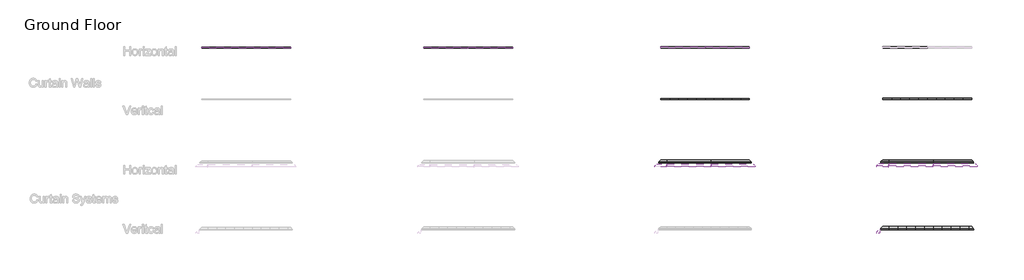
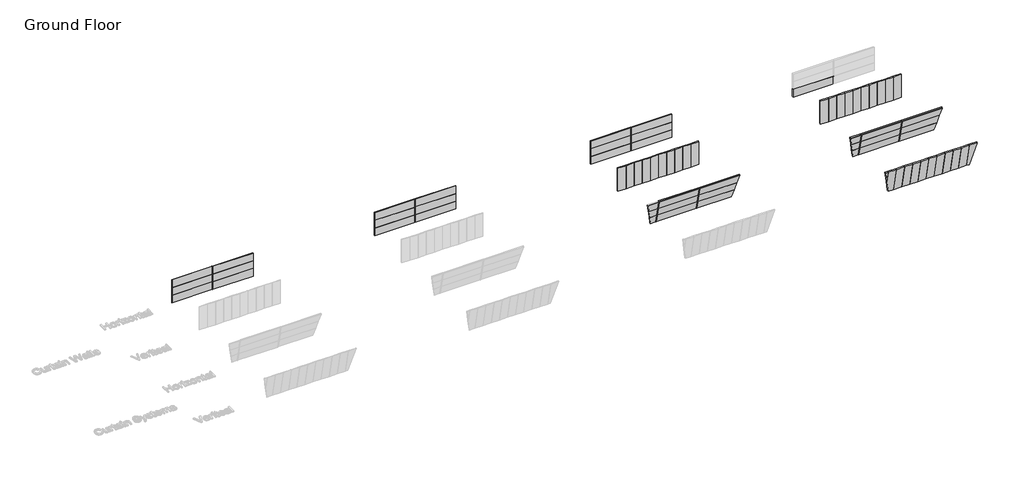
# One storey, part 2 of 9: 74 plates, 25 members.
"""IFC4 building model written with IfcOpenShell, lengths in millimetres."""

from ifc_helpers import new_model, si_unit, origin, place, context, project, spatial, transform, mapped, element, save
from components import rectangular_mullion_pi_mullion_20gap_50depth_70width_d0ed6173, rectangular_mullion_pi_mullion_20gap_50depth_70width_142a5764, rectangular_mullion_pi_mullion_20gap_50depth_70width_9113199f, system_panel_2c57112f, system_panel_697395f3, system_panel_573d2014, system_panel_0390bdc7, system_panel_1b0c88f6, system_panel_17cfb40a, system_panel_ba8f056f, system_panel_ebee40ae, system_panel_bdb03481, system_panel_a81ec092, system_panel_2d42fb1b, system_panel_5ff77a8b, system_panel_9321762e, system_panel_c71e2b66, system_panel_2ec3f56c, system_panel_6f0eb11b, system_panel_3cb989ff, system_panel_ad831b4e, system_panel_1f499e5d, system_panel_25ad28c7, system_panel_212c07fe, system_panel_cee82647, system_panel_2a0c4a62, system_panel_820816a4, system_panel_d4aeffd6, system_panel_48e39383, system_panel_5c141952, system_panel_36b0335f, system_panel_2fc1e0e9

model = new_model("IFC4")

# Units and contexts
model_context = context("Model", 3, world=origin())
ifc_project = project(units=[si_unit("LENGTHUNIT", "METRE", prefix="MILLI")], contexts=[model_context])

# Site, building, storey
site = spatial("IfcSite", under=ifc_project)
building = spatial("IfcBuilding", under=site)
storey = spatial("IfcBuildingStorey", under=building, Name="Ground Floor", Elevation=0.0)

# Members
placement = place(None, origin())
rectangular_mullion_pi_mullion_20gap_50depth_70width_shape = rectangular_mullion_pi_mullion_20gap_50depth_70width_d0ed6173(model_context)
element("IfcMember", 1, ObjectType="Rectangular Mullion : PI-Mullion - 20Gap-50Depth-70Width", at=placement, inside=storey, context=model_context, shape_type="MappedRepresentation", body=[
    mapped(rectangular_mullion_pi_mullion_20gap_50depth_70width_shape, transform((-44997.533429, 4866.6714822, 2400.0), x_axis=(1.0, 0.0, 0.0), y_axis=(0.0, -1.0, 0.0), z_axis=(0.0, 0.0, -1.0))),
])
element("IfcMember", 2, ObjectType="Rectangular Mullion : PI-Mullion - 20Gap-50Depth-70Width", at=placement, inside=storey, context=model_context, shape_type="MappedRepresentation", body=[
    mapped(rectangular_mullion_pi_mullion_20gap_50depth_70width_shape, transform((17002.466571, 4866.6714822, 2400.0), x_axis=(1.0, 0.0, 0.0), y_axis=(0.0, -1.0, 0.0), z_axis=(0.0, 0.0, -1.0))),
])
element("IfcMember", 3, ObjectType="Rectangular Mullion : PI-Mullion - 20Gap-50Depth-70Width", at=placement, inside=storey, context=model_context, shape_type="MappedRepresentation", body=[
    mapped(rectangular_mullion_pi_mullion_20gap_50depth_70width_shape, transform((-14997.533429, 4866.6714822, 2400.0), x_axis=(1.0, 0.0, 0.0), y_axis=(0.0, -1.0, 0.0), z_axis=(0.0, 0.0, -1.0))),
])
element("IfcMember", 4, ObjectType="Rectangular Mullion : PI-Mullion - 20Gap-50Depth-70Width", at=placement, inside=storey, context=model_context, shape_type="MappedRepresentation", body=[
    mapped(rectangular_mullion_pi_mullion_20gap_50depth_70width_shape, transform((-44997.533429, 4866.6714822, 1200.0), x_axis=(1.0, 0.0, 0.0), y_axis=(0.0, -1.0, 0.0), z_axis=(0.0, 0.0, -1.0))),
])
element("IfcMember", 5, ObjectType="Rectangular Mullion : PI-Mullion - 20Gap-50Depth-70Width", at=placement, inside=storey, context=model_context, shape_type="MappedRepresentation", body=[
    mapped(rectangular_mullion_pi_mullion_20gap_50depth_70width_shape, transform((17002.466571, 4866.6714822, 1200.0), x_axis=(1.0, 0.0, 0.0), y_axis=(0.0, -1.0, 0.0), z_axis=(0.0, 0.0, -1.0))),
])
element("IfcMember", 6, ObjectType="Rectangular Mullion : PI-Mullion - 20Gap-50Depth-70Width", at=placement, inside=storey, context=model_context, shape_type="MappedRepresentation", body=[
    mapped(rectangular_mullion_pi_mullion_20gap_50depth_70width_shape, transform((-14997.533429, 4866.6714822, 1200.0), x_axis=(1.0, 0.0, 0.0), y_axis=(0.0, -1.0, 0.0), z_axis=(0.0, 0.0, -1.0))),
])
element("IfcMember", 7, ObjectType="Rectangular Mullion : PI-Mullion - 20Gap-50Depth-70Width", at=placement, inside=storey, context=model_context, shape_type="MappedRepresentation", body=[
    mapped(rectangular_mullion_pi_mullion_20gap_50depth_70width_shape, transform((-44997.533429, 4866.6714822, 0.0), x_axis=(1.0, 0.0, 0.0), y_axis=(0.0, -1.0, 0.0), z_axis=(0.0, 0.0, -1.0))),
])
element("IfcMember", 8, ObjectType="Rectangular Mullion : PI-Mullion - 20Gap-50Depth-70Width", at=placement, inside=storey, context=model_context, shape_type="MappedRepresentation", body=[
    mapped(rectangular_mullion_pi_mullion_20gap_50depth_70width_shape, transform((17002.466571, 4866.6714822, 0.0), x_axis=(1.0, 0.0, 0.0), y_axis=(0.0, -1.0, 0.0), z_axis=(0.0, 0.0, -1.0))),
])
element("IfcMember", 9, ObjectType="Rectangular Mullion : PI-Mullion - 20Gap-50Depth-70Width", at=placement, inside=storey, context=model_context, shape_type="MappedRepresentation", body=[
    mapped(rectangular_mullion_pi_mullion_20gap_50depth_70width_shape, transform((-14997.533429, 4866.6714822, 0.0), x_axis=(1.0, 0.0, 0.0), y_axis=(0.0, -1.0, 0.0), z_axis=(0.0, 0.0, -1.0))),
])
rectangular_mullion_pi_mullion_20gap_50depth_70width_2_shape = rectangular_mullion_pi_mullion_20gap_50depth_70width_142a5764(model_context)
element("IfcMember", 10, ObjectType="Rectangular Mullion : PI-Mullion - 20Gap-50Depth-70Width", at=placement, inside=storey, context=model_context, shape_type="MappedRepresentation", body=[
    mapped(rectangular_mullion_pi_mullion_20gap_50depth_70width_2_shape, transform((17812.466571, -11236.337246, 3600.0), x_axis=(-1.0, 0.0, 0.0), y_axis=(0.0, -0.978268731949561, -0.20734099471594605), z_axis=(0.0, -0.20734099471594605, 0.978268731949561))),
])
element("IfcMember", 11, ObjectType="Rectangular Mullion : PI-Mullion - 20Gap-50Depth-70Width", at=placement, inside=storey, context=model_context, shape_type="MappedRepresentation", body=[
    mapped(rectangular_mullion_pi_mullion_20gap_50depth_70width_2_shape, transform((11812.466571, -11236.337246, 3600.0), x_axis=(-1.0, 0.0, 0.0), y_axis=(0.0, -0.978268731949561, -0.20734099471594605), z_axis=(0.0, -0.20734099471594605, 0.978268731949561))),
])
element("IfcMember", 12, ObjectType="Rectangular Mullion : PI-Mullion - 20Gap-50Depth-70Width", at=placement, inside=storey, context=model_context, shape_type="MappedRepresentation", body=[
    mapped(rectangular_mullion_pi_mullion_20gap_50depth_70width_2_shape, transform((47812.466571, -11236.337246, 3600.0), x_axis=(-1.0, 0.0, 0.0), y_axis=(0.0, -0.978268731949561, -0.20734099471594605), z_axis=(0.0, -0.20734099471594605, 0.978268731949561))),
])
element("IfcMember", 13, ObjectType="Rectangular Mullion : PI-Mullion - 20Gap-50Depth-70Width", at=placement, inside=storey, context=model_context, shape_type="MappedRepresentation", body=[
    mapped(rectangular_mullion_pi_mullion_20gap_50depth_70width_2_shape, transform((41812.466571, -11236.337246, 3600.0), x_axis=(-1.0, 0.0, 0.0), y_axis=(0.0, -0.978268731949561, -0.20734099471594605), z_axis=(0.0, -0.20734099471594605, 0.978268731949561))),
])
rectangular_mullion_pi_mullion_20gap_50depth_70width_3_shape = rectangular_mullion_pi_mullion_20gap_50depth_70width_9113199f(model_context)
element("IfcMember", 14, ObjectType="Rectangular Mullion : PI-Mullion - 20Gap-50Depth-70Width", at=placement, inside=storey, context=model_context, shape_type="MappedRepresentation", body=[
    mapped(rectangular_mullion_pi_mullion_20gap_50depth_70width_3_shape, transform((17812.466571, -10722.1377115, 1173.9224783), x_axis=(-1.0, 0.0, 0.0), y_axis=(0.0, -0.9782687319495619, -0.207340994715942), z_axis=(0.0, -0.207340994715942, 0.9782687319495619))),
])
element("IfcMember", 15, ObjectType="Rectangular Mullion : PI-Mullion - 20Gap-50Depth-70Width", at=placement, inside=storey, context=model_context, shape_type="MappedRepresentation", body=[
    mapped(rectangular_mullion_pi_mullion_20gap_50depth_70width_3_shape, transform((11812.466571, -10722.1377115, 1173.9224783), x_axis=(-1.0, 0.0, 0.0), y_axis=(0.0, -0.9782687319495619, -0.207340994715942), z_axis=(0.0, -0.207340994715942, 0.9782687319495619))),
])
element("IfcMember", 16, ObjectType="Rectangular Mullion : PI-Mullion - 20Gap-50Depth-70Width", at=placement, inside=storey, context=model_context, shape_type="MappedRepresentation", body=[
    mapped(rectangular_mullion_pi_mullion_20gap_50depth_70width_3_shape, transform((47812.466571, -10722.1377115, 1173.9224783), x_axis=(-1.0, 0.0, 0.0), y_axis=(0.0, -0.9782687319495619, -0.207340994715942), z_axis=(0.0, -0.207340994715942, 0.9782687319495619))),
])
element("IfcMember", 17, ObjectType="Rectangular Mullion : PI-Mullion - 20Gap-50Depth-70Width", at=placement, inside=storey, context=model_context, shape_type="MappedRepresentation", body=[
    mapped(rectangular_mullion_pi_mullion_20gap_50depth_70width_3_shape, transform((41812.466571, -10722.1377115, 1173.9224783), x_axis=(-1.0, 0.0, 0.0), y_axis=(0.0, -0.9782687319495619, -0.207340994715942), z_axis=(0.0, -0.207340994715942, 0.9782687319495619))),
])
element("IfcMember", 18, ObjectType="Rectangular Mullion : PI-Mullion - 20Gap-50Depth-70Width", at=placement, inside=storey, context=model_context, shape_type="MappedRepresentation", body=[
    mapped(rectangular_mullion_pi_mullion_20gap_50depth_70width_3_shape, transform((17812.466571, -10970.9469052, 2347.8449567), x_axis=(-1.0, 0.0, 0.0), y_axis=(0.0, -0.9782687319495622, -0.20734099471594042), z_axis=(0.0, -0.20734099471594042, 0.9782687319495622))),
])
element("IfcMember", 19, ObjectType="Rectangular Mullion : PI-Mullion - 20Gap-50Depth-70Width", at=placement, inside=storey, context=model_context, shape_type="MappedRepresentation", body=[
    mapped(rectangular_mullion_pi_mullion_20gap_50depth_70width_3_shape, transform((11812.466571, -10970.9469052, 2347.8449567), x_axis=(-1.0, 0.0, 0.0), y_axis=(0.0, -0.9782687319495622, -0.20734099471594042), z_axis=(0.0, -0.20734099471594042, 0.9782687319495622))),
])
element("IfcMember", 20, ObjectType="Rectangular Mullion : PI-Mullion - 20Gap-50Depth-70Width", at=placement, inside=storey, context=model_context, shape_type="MappedRepresentation", body=[
    mapped(rectangular_mullion_pi_mullion_20gap_50depth_70width_3_shape, transform((17812.466571, -11219.7560988, 3521.767435), x_axis=(-1.0, 0.0, 0.0), y_axis=(0.0, -0.9782687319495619, -0.20734099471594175), z_axis=(0.0, -0.20734099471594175, 0.9782687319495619))),
])
element("IfcMember", 21, ObjectType="Rectangular Mullion : PI-Mullion - 20Gap-50Depth-70Width", at=placement, inside=storey, context=model_context, shape_type="MappedRepresentation", body=[
    mapped(rectangular_mullion_pi_mullion_20gap_50depth_70width_3_shape, transform((11812.466571, -11219.7560988, 3521.767435), x_axis=(-1.0, 0.0, 0.0), y_axis=(0.0, -0.9782687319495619, -0.20734099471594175), z_axis=(0.0, -0.20734099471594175, 0.9782687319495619))),
])
element("IfcMember", 22, ObjectType="Rectangular Mullion : PI-Mullion - 20Gap-50Depth-70Width", at=placement, inside=storey, context=model_context, shape_type="MappedRepresentation", body=[
    mapped(rectangular_mullion_pi_mullion_20gap_50depth_70width_3_shape, transform((47812.466571, -10970.9469052, 2347.8449567), x_axis=(-1.0, 0.0, 0.0), y_axis=(0.0, -0.9782687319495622, -0.20734099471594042), z_axis=(0.0, -0.20734099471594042, 0.9782687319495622))),
])
element("IfcMember", 23, ObjectType="Rectangular Mullion : PI-Mullion - 20Gap-50Depth-70Width", at=placement, inside=storey, context=model_context, shape_type="MappedRepresentation", body=[
    mapped(rectangular_mullion_pi_mullion_20gap_50depth_70width_3_shape, transform((41812.466571, -10970.9469052, 2347.8449567), x_axis=(-1.0, 0.0, 0.0), y_axis=(0.0, -0.9782687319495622, -0.20734099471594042), z_axis=(0.0, -0.20734099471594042, 0.9782687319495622))),
])
element("IfcMember", 24, ObjectType="Rectangular Mullion : PI-Mullion - 20Gap-50Depth-70Width", at=placement, inside=storey, context=model_context, shape_type="MappedRepresentation", body=[
    mapped(rectangular_mullion_pi_mullion_20gap_50depth_70width_3_shape, transform((47812.466571, -11219.7560988, 3521.767435), x_axis=(-1.0, 0.0, 0.0), y_axis=(0.0, -0.9782687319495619, -0.20734099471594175), z_axis=(0.0, -0.20734099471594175, 0.9782687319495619))),
])
element("IfcMember", 25, ObjectType="Rectangular Mullion : PI-Mullion - 20Gap-50Depth-70Width", at=placement, inside=storey, context=model_context, shape_type="MappedRepresentation", body=[
    mapped(rectangular_mullion_pi_mullion_20gap_50depth_70width_3_shape, transform((41812.466571, -11219.7560988, 3521.767435), x_axis=(-1.0, 0.0, 0.0), y_axis=(0.0, -0.9782687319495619, -0.20734099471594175), z_axis=(0.0, -0.20734099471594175, 0.9782687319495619))),
])

# Plates
system_panel_shape = system_panel_2c57112f(model_context)
element("IfcPlate", 26, ObjectType="System Panel : Equitilt 150mm Horizontal - Plain RHEA - EPS-FR", at=placement, inside=storey, context=model_context, shape_type="MappedRepresentation", body=[
    mapped(system_panel_shape, transform((13997.466571, 4866.6714822, 0.0), x_axis=(1.0, 0.0, 0.0), y_axis=(0.0, 1.0, 0.0), z_axis=(0.0, 0.0, 1.0))),
])
element("IfcPlate", 27, ObjectType="System Panel : Equitilt 150mm Horizontal - Plain RHEA - EPS-FR", at=placement, inside=storey, context=model_context, shape_type="MappedRepresentation", body=[
    mapped(system_panel_shape, transform((13997.466571, 4866.6714822, 1200.0), x_axis=(1.0, 0.0, 0.0), y_axis=(0.0, 1.0, 0.0), z_axis=(0.0, 0.0, 1.0))),
])
element("IfcPlate", 28, ObjectType="System Panel : Equitilt 150mm Horizontal - Plain RHEA - EPS-FR", at=placement, inside=storey, context=model_context, shape_type="MappedRepresentation", body=[
    mapped(system_panel_shape, transform((13997.466571, 4866.6714822, 2400.0), x_axis=(1.0, 0.0, 0.0), y_axis=(0.0, 1.0, 0.0), z_axis=(0.0, 0.0, 1.0))),
])
element("IfcPlate", 29, ObjectType="System Panel : Equitilt 150mm Horizontal - Plain RHEA - EPS-FR", at=placement, inside=storey, context=model_context, shape_type="MappedRepresentation", body=[
    mapped(system_panel_shape, transform((20007.466571, 4866.6714822, 0.0), x_axis=(1.0, 0.0, 0.0), y_axis=(0.0, 1.0, 0.0), z_axis=(0.0, 0.0, 1.0))),
])
element("IfcPlate", 30, ObjectType="System Panel : Equitilt 150mm Horizontal - Plain RHEA - EPS-FR", at=placement, inside=storey, context=model_context, shape_type="MappedRepresentation", body=[
    mapped(system_panel_shape, transform((20007.466571, 4866.6714822, 1200.0), x_axis=(1.0, 0.0, 0.0), y_axis=(0.0, 1.0, 0.0), z_axis=(0.0, 0.0, 1.0))),
])
element("IfcPlate", 31, ObjectType="System Panel : Equitilt 150mm Horizontal - Plain RHEA - EPS-FR", at=placement, inside=storey, context=model_context, shape_type="MappedRepresentation", body=[
    mapped(system_panel_shape, transform((20007.466571, 4866.6714822, 2400.0), x_axis=(1.0, 0.0, 0.0), y_axis=(0.0, 1.0, 0.0), z_axis=(0.0, 0.0, 1.0))),
])
system_panel_2_shape = system_panel_697395f3(model_context)
element("IfcPlate", 32, ObjectType="System Panel : Equitilt 150mm Horizontal - Plain RHEA - EPS-FR", at=placement, inside=storey, context=model_context, shape_type="MappedRepresentation", body=[
    mapped(system_panel_2_shape, transform((20542.902402, -10473.3285178, 0.0), x_axis=(-1.0, 0.0, 0.0), y_axis=(0.0, -0.978268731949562, -0.20734099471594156), z_axis=(0.0, -0.20734099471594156, 0.978268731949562))),
])
system_panel_3_shape = system_panel_573d2014(model_context)
element("IfcPlate", 33, ObjectType="System Panel : Equitilt 150mm Horizontal - Plain RHEA - EPS-FR", at=placement, inside=storey, context=model_context, shape_type="MappedRepresentation", body=[
    mapped(system_panel_3_shape, transform((14812.466571, -10473.3285178, 0.0), x_axis=(-1.0, 0.0, 0.0), y_axis=(0.0, -0.978268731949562, -0.20734099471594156), z_axis=(0.0, -0.20734099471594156, 0.978268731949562))),
])
element("IfcPlate", 34, ObjectType="System Panel : Equitilt 150mm Horizontal - Plain RHEA - EPS-FR", at=placement, inside=storey, context=model_context, shape_type="MappedRepresentation", body=[
    mapped(system_panel_3_shape, transform((14812.466571, -10722.1377115, 1173.9224783), x_axis=(-1.0, 0.0, 0.0), y_axis=(0.0, -0.978268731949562, -0.20734099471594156), z_axis=(0.0, -0.20734099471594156, 0.978268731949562))),
])
element("IfcPlate", 35, ObjectType="System Panel : Equitilt 150mm Horizontal - Plain RHEA - EPS-FR", at=placement, inside=storey, context=model_context, shape_type="MappedRepresentation", body=[
    mapped(system_panel_3_shape, transform((14812.466571, -10970.9469052, 2347.8449567), x_axis=(-1.0, 0.0, 0.0), y_axis=(0.0, -0.978268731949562, -0.20734099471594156), z_axis=(0.0, -0.20734099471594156, 0.978268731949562))),
])
system_panel_4_shape = system_panel_0390bdc7(model_context)
element("IfcPlate", 36, ObjectType="System Panel : Equitilt 150mm Horizontal - Plain RHEA - EPS-FR", at=placement, inside=storey, context=model_context, shape_type="MappedRepresentation", body=[
    mapped(system_panel_4_shape, transform((11272.0307401, -10473.3285178, 0.0), x_axis=(-1.0, 0.0, 0.0), y_axis=(0.0, -0.978268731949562, -0.20734099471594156), z_axis=(0.0, -0.20734099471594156, 0.978268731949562))),
])
system_panel_5_shape = system_panel_1b0c88f6(model_context)
element("IfcPlate", 37, ObjectType="System Panel : Equitilt 150mm Horizontal - Plain RHEA - EPS-FR", at=placement, inside=storey, context=model_context, shape_type="MappedRepresentation", body=[
    mapped(system_panel_5_shape, transform((20673.3382329, -10722.1377115, 1173.9224783), x_axis=(-1.0, 0.0, 0.0), y_axis=(0.0, -0.978268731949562, -0.20734099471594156), z_axis=(0.0, -0.20734099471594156, 0.978268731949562))),
])
system_panel_6_shape = system_panel_17cfb40a(model_context)
element("IfcPlate", 38, ObjectType="System Panel : Equitilt 150mm Horizontal - Plain RHEA - EPS-FR", at=placement, inside=storey, context=model_context, shape_type="MappedRepresentation", body=[
    mapped(system_panel_6_shape, transform((11141.5949092, -10722.1377115, 1173.9224783), x_axis=(-1.0, 0.0, 0.0), y_axis=(0.0, -0.978268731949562, -0.20734099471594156), z_axis=(0.0, -0.20734099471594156, 0.978268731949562))),
])
system_panel_7_shape = system_panel_ba8f056f(model_context)
element("IfcPlate", 39, ObjectType="System Panel : Equitilt 150mm Horizontal - Plain RHEA - EPS-FR", at=placement, inside=storey, context=model_context, shape_type="MappedRepresentation", body=[
    mapped(system_panel_7_shape, transform((20803.7740638, -10970.9469052, 2347.8449567), x_axis=(-1.0, 0.0, 0.0), y_axis=(0.0, -0.978268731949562, -0.20734099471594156), z_axis=(0.0, -0.20734099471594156, 0.978268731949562))),
])
system_panel_8_shape = system_panel_ebee40ae(model_context)
element("IfcPlate", 40, ObjectType="System Panel : Equitilt 150mm Horizontal - Plain RHEA - EPS-FR", at=placement, inside=storey, context=model_context, shape_type="MappedRepresentation", body=[
    mapped(system_panel_8_shape, transform((11011.1590783, -10970.9469052, 2347.8449567), x_axis=(-1.0, 0.0, 0.0), y_axis=(0.0, -0.978268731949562, -0.20734099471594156), z_axis=(0.0, -0.20734099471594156, 0.978268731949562))),
])
system_panel_9_shape = system_panel_bdb03481(model_context)
element("IfcPlate", 41, ObjectType="System Panel : Equitilt 150mm Horizontal - Plain RHEA - EPS-FR", at=placement, inside=storey, context=model_context, shape_type="MappedRepresentation", body=[
    mapped(system_panel_9_shape, transform((20812.466571, -11219.7560988, 3521.767435), x_axis=(-1.0, 0.0, 0.0), y_axis=(0.0, -0.978268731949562, -0.20734099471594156), z_axis=(0.0, -0.20734099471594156, 0.978268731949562))),
])
system_panel_10_shape = system_panel_a81ec092(model_context)
element("IfcPlate", 42, ObjectType="System Panel : Equitilt 150mm Horizontal - Plain RHEA - EPS-FR", at=placement, inside=storey, context=model_context, shape_type="MappedRepresentation", body=[
    mapped(system_panel_10_shape, transform((14812.466571, -11219.7560988, 3521.767435), x_axis=(-1.0, 0.0, 0.0), y_axis=(0.0, -0.978268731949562, -0.20734099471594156), z_axis=(0.0, -0.20734099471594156, 0.978268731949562))),
])
system_panel_11_shape = system_panel_2d42fb1b(model_context)
element("IfcPlate", 43, ObjectType="System Panel : Equitilt 200mm Horizontal - Plain RHEA - EPS-FR", at=placement, inside=storey, context=model_context, shape_type="MappedRepresentation", body=[
    mapped(system_panel_11_shape, transform((43997.466571, 4866.6714822, 0.0), x_axis=(1.0, 0.0, 0.0), y_axis=(0.0, 1.0, 0.0), z_axis=(0.0, 0.0, 1.0))),
])
system_panel_12_shape = system_panel_5ff77a8b(model_context)
element("IfcPlate", 44, ObjectType="System Panel : Equitilt 200mm Horizontal - Plain RHEA - EPS-FR", at=placement, inside=storey, context=model_context, shape_type="MappedRepresentation", body=[
    mapped(system_panel_12_shape, transform((50542.902402, -10473.3285178, 0.0), x_axis=(-1.0, 0.0, 0.0), y_axis=(0.0, -0.978268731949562, -0.20734099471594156), z_axis=(0.0, -0.20734099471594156, 0.978268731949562))),
])
system_panel_13_shape = system_panel_9321762e(model_context)
element("IfcPlate", 45, ObjectType="System Panel : Equitilt 200mm Horizontal - Plain RHEA - EPS-FR", at=placement, inside=storey, context=model_context, shape_type="MappedRepresentation", body=[
    mapped(system_panel_13_shape, transform((44812.466571, -10473.3285178, 0.0), x_axis=(-1.0, 0.0, 0.0), y_axis=(0.0, -0.978268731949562, -0.20734099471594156), z_axis=(0.0, -0.20734099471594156, 0.978268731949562))),
])
element("IfcPlate", 46, ObjectType="System Panel : Equitilt 200mm Horizontal - Plain RHEA - EPS-FR", at=placement, inside=storey, context=model_context, shape_type="MappedRepresentation", body=[
    mapped(system_panel_13_shape, transform((44812.466571, -10722.1377115, 1173.9224783), x_axis=(-1.0, 0.0, 0.0), y_axis=(0.0, -0.978268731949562, -0.20734099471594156), z_axis=(0.0, -0.20734099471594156, 0.978268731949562))),
])
element("IfcPlate", 47, ObjectType="System Panel : Equitilt 200mm Horizontal - Plain RHEA - EPS-FR", at=placement, inside=storey, context=model_context, shape_type="MappedRepresentation", body=[
    mapped(system_panel_13_shape, transform((44812.466571, -10970.9469052, 2347.8449567), x_axis=(-1.0, 0.0, 0.0), y_axis=(0.0, -0.978268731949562, -0.20734099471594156), z_axis=(0.0, -0.20734099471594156, 0.978268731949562))),
])
system_panel_14_shape = system_panel_c71e2b66(model_context)
element("IfcPlate", 48, ObjectType="System Panel : Equitilt 200mm Horizontal - Plain RHEA - EPS-FR", at=placement, inside=storey, context=model_context, shape_type="MappedRepresentation", body=[
    mapped(system_panel_14_shape, transform((41272.0307401, -10473.3285178, 0.0), x_axis=(-1.0, 0.0, 0.0), y_axis=(0.0, -0.978268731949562, -0.20734099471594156), z_axis=(0.0, -0.20734099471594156, 0.978268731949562))),
])
system_panel_15_shape = system_panel_2ec3f56c(model_context)
element("IfcPlate", 49, ObjectType="System Panel : Equitilt 200mm Horizontal - Plain RHEA - EPS-FR", at=placement, inside=storey, context=model_context, shape_type="MappedRepresentation", body=[
    mapped(system_panel_15_shape, transform((50673.3382329, -10722.1377115, 1173.9224783), x_axis=(-1.0, 0.0, 0.0), y_axis=(0.0, -0.978268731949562, -0.20734099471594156), z_axis=(0.0, -0.20734099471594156, 0.978268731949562))),
])
system_panel_16_shape = system_panel_6f0eb11b(model_context)
element("IfcPlate", 50, ObjectType="System Panel : Equitilt 200mm Horizontal - Plain RHEA - EPS-FR", at=placement, inside=storey, context=model_context, shape_type="MappedRepresentation", body=[
    mapped(system_panel_16_shape, transform((41141.5949092, -10722.1377115, 1173.9224783), x_axis=(-1.0, 0.0, 0.0), y_axis=(0.0, -0.978268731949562, -0.20734099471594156), z_axis=(0.0, -0.20734099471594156, 0.978268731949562))),
])
system_panel_17_shape = system_panel_3cb989ff(model_context)
element("IfcPlate", 51, ObjectType="System Panel : Equitilt 200mm Horizontal - Plain RHEA - EPS-FR", at=placement, inside=storey, context=model_context, shape_type="MappedRepresentation", body=[
    mapped(system_panel_17_shape, transform((50803.7740638, -10970.9469052, 2347.8449567), x_axis=(-1.0, 0.0, 0.0), y_axis=(0.0, -0.978268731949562, -0.20734099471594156), z_axis=(0.0, -0.20734099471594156, 0.978268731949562))),
])
system_panel_18_shape = system_panel_ad831b4e(model_context)
element("IfcPlate", 52, ObjectType="System Panel : Equitilt 200mm Horizontal - Plain RHEA - EPS-FR", at=placement, inside=storey, context=model_context, shape_type="MappedRepresentation", body=[
    mapped(system_panel_18_shape, transform((41011.1590783, -10970.9469052, 2347.8449567), x_axis=(-1.0, 0.0, 0.0), y_axis=(0.0, -0.978268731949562, -0.20734099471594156), z_axis=(0.0, -0.20734099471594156, 0.978268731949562))),
])
system_panel_19_shape = system_panel_1f499e5d(model_context)
element("IfcPlate", 53, ObjectType="System Panel : Equitilt 200mm Horizontal - Plain RHEA - EPS-FR", at=placement, inside=storey, context=model_context, shape_type="MappedRepresentation", body=[
    mapped(system_panel_19_shape, transform((50812.466571, -11219.7560988, 3521.767435), x_axis=(-1.0, 0.0, 0.0), y_axis=(0.0, -0.978268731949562, -0.20734099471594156), z_axis=(0.0, -0.20734099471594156, 0.978268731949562))),
])
system_panel_20_shape = system_panel_25ad28c7(model_context)
element("IfcPlate", 54, ObjectType="System Panel : Equitilt 200mm Horizontal - Plain RHEA - EPS-FR", at=placement, inside=storey, context=model_context, shape_type="MappedRepresentation", body=[
    mapped(system_panel_20_shape, transform((44812.466571, -11219.7560988, 3521.767435), x_axis=(-1.0, 0.0, 0.0), y_axis=(0.0, -0.978268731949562, -0.20734099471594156), z_axis=(0.0, -0.20734099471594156, 0.978268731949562))),
])
system_panel_21_shape = system_panel_212c07fe(model_context)
element("IfcPlate", 55, ObjectType="System Panel : Equitilt 200mm Horizontal - Plain RHEA - EPS-FR", at=placement, inside=storey, context=model_context, shape_type="MappedRepresentation", body=[
    mapped(system_panel_21_shape, transform((41002.466571, -11219.7560988, 3521.767435), x_axis=(-1.0, 0.0, 0.0), y_axis=(0.0, -0.978268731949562, -0.20734099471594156), z_axis=(0.0, -0.20734099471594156, 0.978268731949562))),
])
system_panel_22_shape = system_panel_cee82647(model_context)
element("IfcPlate", 56, ObjectType="System Panel : Equitilt 200mm Vertical - Plain RHEA - EPS-FR", at=placement, inside=storey, context=model_context, shape_type="MappedRepresentation", body=[
    mapped(system_panel_22_shape, transform((53202.466571, -19473.3285178, 0.0), x_axis=(-1.0, 0.0, 0.0), y_axis=(0.0, -0.978268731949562, -0.20734099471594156), z_axis=(0.0, -0.20734099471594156, 0.978268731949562))),
])
system_panel_23_shape = system_panel_2a0c4a62(model_context)
element("IfcPlate", 57, ObjectType="System Panel : Equitilt 200mm Vertical - Plain RHEA - EPS-FR", at=placement, inside=storey, context=model_context, shape_type="MappedRepresentation", body=[
    mapped(system_panel_23_shape, transform((52002.466571, -19473.3285178, 0.0), x_axis=(-1.0, 0.0, 0.0), y_axis=(0.0, -0.978268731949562, -0.20734099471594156), z_axis=(0.0, -0.20734099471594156, 0.978268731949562))),
])
element("IfcPlate", 58, ObjectType="System Panel : Equitilt 200mm Vertical - Plain RHEA - EPS-FR", at=placement, inside=storey, context=model_context, shape_type="MappedRepresentation", body=[
    mapped(system_panel_23_shape, transform((50802.466571, -19473.3285178, 0.0), x_axis=(-1.0, 0.0, 0.0), y_axis=(0.0, -0.978268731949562, -0.20734099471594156), z_axis=(0.0, -0.20734099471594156, 0.978268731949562))),
])
element("IfcPlate", 59, ObjectType="System Panel : Equitilt 200mm Vertical - Plain RHEA - EPS-FR", at=placement, inside=storey, context=model_context, shape_type="MappedRepresentation", body=[
    mapped(system_panel_23_shape, transform((49602.466571, -19473.3285178, 0.0), x_axis=(-1.0, 0.0, 0.0), y_axis=(0.0, -0.978268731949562, -0.20734099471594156), z_axis=(0.0, -0.20734099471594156, 0.978268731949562))),
])
element("IfcPlate", 60, ObjectType="System Panel : Equitilt 200mm Vertical - Plain RHEA - EPS-FR", at=placement, inside=storey, context=model_context, shape_type="MappedRepresentation", body=[
    mapped(system_panel_23_shape, transform((48402.466571, -19473.3285178, 0.0), x_axis=(-1.0, 0.0, 0.0), y_axis=(0.0, -0.978268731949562, -0.20734099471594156), z_axis=(0.0, -0.20734099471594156, 0.978268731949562))),
])
element("IfcPlate", 61, ObjectType="System Panel : Equitilt 200mm Vertical - Plain RHEA - EPS-FR", at=placement, inside=storey, context=model_context, shape_type="MappedRepresentation", body=[
    mapped(system_panel_23_shape, transform((47202.466571, -19473.3285178, 0.0), x_axis=(-1.0, 0.0, 0.0), y_axis=(0.0, -0.978268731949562, -0.20734099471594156), z_axis=(0.0, -0.20734099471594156, 0.978268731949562))),
])
element("IfcPlate", 62, ObjectType="System Panel : Equitilt 200mm Vertical - Plain RHEA - EPS-FR", at=placement, inside=storey, context=model_context, shape_type="MappedRepresentation", body=[
    mapped(system_panel_23_shape, transform((46002.466571, -19473.3285178, 0.0), x_axis=(-1.0, 0.0, 0.0), y_axis=(0.0, -0.978268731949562, -0.20734099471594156), z_axis=(0.0, -0.20734099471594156, 0.978268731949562))),
])
element("IfcPlate", 63, ObjectType="System Panel : Equitilt 200mm Vertical - Plain RHEA - EPS-FR", at=placement, inside=storey, context=model_context, shape_type="MappedRepresentation", body=[
    mapped(system_panel_23_shape, transform((44802.466571, -19473.3285178, 0.0), x_axis=(-1.0, 0.0, 0.0), y_axis=(0.0, -0.978268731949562, -0.20734099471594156), z_axis=(0.0, -0.20734099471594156, 0.978268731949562))),
])
element("IfcPlate", 64, ObjectType="System Panel : Equitilt 200mm Vertical - Plain RHEA - EPS-FR", at=placement, inside=storey, context=model_context, shape_type="MappedRepresentation", body=[
    mapped(system_panel_23_shape, transform((43602.466571, -19473.3285178, 0.0), x_axis=(-1.0, 0.0, 0.0), y_axis=(0.0, -0.978268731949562, -0.20734099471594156), z_axis=(0.0, -0.20734099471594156, 0.978268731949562))),
])
element("IfcPlate", 65, ObjectType="System Panel : Equitilt 200mm Vertical - Plain RHEA - EPS-FR", at=placement, inside=storey, context=model_context, shape_type="MappedRepresentation", body=[
    mapped(system_panel_23_shape, transform((42402.466571, -19473.3285178, 0.0), x_axis=(-1.0, 0.0, 0.0), y_axis=(0.0, -0.978268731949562, -0.20734099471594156), z_axis=(0.0, -0.20734099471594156, 0.978268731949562))),
])
system_panel_24_shape = system_panel_820816a4(model_context)
element("IfcPlate", 66, ObjectType="System Panel : Equitilt 200mm Vertical - Plain RHEA - EPS-FR", at=placement, inside=storey, context=model_context, shape_type="MappedRepresentation", body=[
    mapped(system_panel_24_shape, transform((41202.466571, -19473.3285178, 0.0), x_axis=(-1.0, 0.0, 0.0), y_axis=(0.0, -0.978268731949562, -0.20734099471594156), z_axis=(0.0, -0.20734099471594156, 0.978268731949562))),
])
system_panel_25_shape = system_panel_d4aeffd6(model_context)
element("IfcPlate", 67, ObjectType="System Panel : Equitilt 200mm Vertical - Plain RHEA - EPS-FR", at=placement, inside=storey, context=model_context, shape_type="MappedRepresentation", body=[
    mapped(system_panel_25_shape, transform((40402.466571, -19854.8328819, 1800.0), x_axis=(-1.0, 0.0, 0.0), y_axis=(0.0, -0.978268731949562, -0.20734099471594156), z_axis=(0.0, -0.20734099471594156, 0.978268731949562))),
])
system_panel_26_shape = system_panel_48e39383(model_context)
element("IfcPlate", 68, ObjectType="System Panel : Equitilt 100mm Horizontal - Plain RHEA - EPS-FR", at=placement, inside=storey, context=model_context, shape_type="MappedRepresentation", body=[
    mapped(system_panel_26_shape, transform((-18002.533429, 4866.6714822, 0.0), x_axis=(1.0, 0.0, 0.0), y_axis=(0.0, 1.0, 0.0), z_axis=(0.0, 0.0, 1.0))),
])
element("IfcPlate", 69, ObjectType="System Panel : Equitilt 100mm Horizontal - Plain RHEA - EPS-FR", at=placement, inside=storey, context=model_context, shape_type="MappedRepresentation", body=[
    mapped(system_panel_26_shape, transform((-18002.533429, 4866.6714822, 1200.0), x_axis=(1.0, 0.0, 0.0), y_axis=(0.0, 1.0, 0.0), z_axis=(0.0, 0.0, 1.0))),
])
element("IfcPlate", 70, ObjectType="System Panel : Equitilt 100mm Horizontal - Plain RHEA - EPS-FR", at=placement, inside=storey, context=model_context, shape_type="MappedRepresentation", body=[
    mapped(system_panel_26_shape, transform((-18002.533429, 4866.6714822, 2400.0), x_axis=(1.0, 0.0, 0.0), y_axis=(0.0, 1.0, 0.0), z_axis=(0.0, 0.0, 1.0))),
])
element("IfcPlate", 71, ObjectType="System Panel : Equitilt 100mm Horizontal - Plain RHEA - EPS-FR", at=placement, inside=storey, context=model_context, shape_type="MappedRepresentation", body=[
    mapped(system_panel_26_shape, transform((-11992.533429, 4866.6714822, 0.0), x_axis=(1.0, 0.0, 0.0), y_axis=(0.0, 1.0, 0.0), z_axis=(0.0, 0.0, 1.0))),
])
element("IfcPlate", 72, ObjectType="System Panel : Equitilt 100mm Horizontal - Plain RHEA - EPS-FR", at=placement, inside=storey, context=model_context, shape_type="MappedRepresentation", body=[
    mapped(system_panel_26_shape, transform((-11992.533429, 4866.6714822, 1200.0), x_axis=(1.0, 0.0, 0.0), y_axis=(0.0, 1.0, 0.0), z_axis=(0.0, 0.0, 1.0))),
])
element("IfcPlate", 73, ObjectType="System Panel : Equitilt 100mm Horizontal - Plain RHEA - EPS-FR", at=placement, inside=storey, context=model_context, shape_type="MappedRepresentation", body=[
    mapped(system_panel_26_shape, transform((-11992.533429, 4866.6714822, 2400.0), x_axis=(1.0, 0.0, 0.0), y_axis=(0.0, 1.0, 0.0), z_axis=(0.0, 0.0, 1.0))),
])
system_panel_27_shape = system_panel_5c141952(model_context)
element("IfcPlate", 74, ObjectType="System Panel : Equitilt 75mm Horizontal - Plain RHEA - EPS-FR", at=placement, inside=storey, context=model_context, shape_type="MappedRepresentation", body=[
    mapped(system_panel_27_shape, transform((-48002.533429, 4866.6714822, 0.0), x_axis=(1.0, 0.0, 0.0), y_axis=(0.0, 1.0, 0.0), z_axis=(0.0, 0.0, 1.0))),
])
element("IfcPlate", 75, ObjectType="System Panel : Equitilt 75mm Horizontal - Plain RHEA - EPS-FR", at=placement, inside=storey, context=model_context, shape_type="MappedRepresentation", body=[
    mapped(system_panel_27_shape, transform((-48002.533429, 4866.6714822, 1200.0), x_axis=(1.0, 0.0, 0.0), y_axis=(0.0, 1.0, 0.0), z_axis=(0.0, 0.0, 1.0))),
])
element("IfcPlate", 76, ObjectType="System Panel : Equitilt 75mm Horizontal - Plain RHEA - EPS-FR", at=placement, inside=storey, context=model_context, shape_type="MappedRepresentation", body=[
    mapped(system_panel_27_shape, transform((-48002.533429, 4866.6714822, 2400.0), x_axis=(1.0, 0.0, 0.0), y_axis=(0.0, 1.0, 0.0), z_axis=(0.0, 0.0, 1.0))),
])
element("IfcPlate", 77, ObjectType="System Panel : Equitilt 75mm Horizontal - Plain RHEA - EPS-FR", at=placement, inside=storey, context=model_context, shape_type="MappedRepresentation", body=[
    mapped(system_panel_27_shape, transform((-41992.533429, 4866.6714822, 0.0), x_axis=(1.0, 0.0, 0.0), y_axis=(0.0, 1.0, 0.0), z_axis=(0.0, 0.0, 1.0))),
])
element("IfcPlate", 78, ObjectType="System Panel : Equitilt 75mm Horizontal - Plain RHEA - EPS-FR", at=placement, inside=storey, context=model_context, shape_type="MappedRepresentation", body=[
    mapped(system_panel_27_shape, transform((-41992.533429, 4866.6714822, 1200.0), x_axis=(1.0, 0.0, 0.0), y_axis=(0.0, 1.0, 0.0), z_axis=(0.0, 0.0, 1.0))),
])
element("IfcPlate", 79, ObjectType="System Panel : Equitilt 75mm Horizontal - Plain RHEA - EPS-FR", at=placement, inside=storey, context=model_context, shape_type="MappedRepresentation", body=[
    mapped(system_panel_27_shape, transform((-41992.533429, 4866.6714822, 2400.0), x_axis=(1.0, 0.0, 0.0), y_axis=(0.0, 1.0, 0.0), z_axis=(0.0, 0.0, 1.0))),
])
system_panel_28_shape = system_panel_36b0335f(model_context)
element("IfcPlate", 80, ObjectType="System Panel : Equitilt 150mm Vertical - Plain RHEA - EPS-FR", at=placement, inside=storey, context=model_context, shape_type="MappedRepresentation", body=[
    mapped(system_panel_28_shape, transform((11602.466571, -2133.3285178, 0.0), x_axis=(1.0, 0.0, 0.0), y_axis=(0.0, 1.0, 0.0), z_axis=(0.0, 0.0, 1.0))),
])
element("IfcPlate", 81, ObjectType="System Panel : Equitilt 150mm Vertical - Plain RHEA - EPS-FR", at=placement, inside=storey, context=model_context, shape_type="MappedRepresentation", body=[
    mapped(system_panel_28_shape, transform((14002.466571, -2133.3285178, 0.0), x_axis=(1.0, 0.0, 0.0), y_axis=(0.0, 1.0, 0.0), z_axis=(0.0, 0.0, 1.0))),
])
element("IfcPlate", 82, ObjectType="System Panel : Equitilt 150mm Vertical - Plain RHEA - EPS-FR", at=placement, inside=storey, context=model_context, shape_type="MappedRepresentation", body=[
    mapped(system_panel_28_shape, transform((15202.466571, -2133.3285178, 0.0), x_axis=(1.0, 0.0, 0.0), y_axis=(0.0, 1.0, 0.0), z_axis=(0.0, 0.0, 1.0))),
])
element("IfcPlate", 83, ObjectType="System Panel : Equitilt 150mm Vertical - Plain RHEA - EPS-FR", at=placement, inside=storey, context=model_context, shape_type="MappedRepresentation", body=[
    mapped(system_panel_28_shape, transform((16402.466571, -2133.3285178, 0.0), x_axis=(1.0, 0.0, 0.0), y_axis=(0.0, 1.0, 0.0), z_axis=(0.0, 0.0, 1.0))),
])
element("IfcPlate", 84, ObjectType="System Panel : Equitilt 150mm Vertical - Plain RHEA - EPS-FR", at=placement, inside=storey, context=model_context, shape_type="MappedRepresentation", body=[
    mapped(system_panel_28_shape, transform((17602.466571, -2133.3285178, 0.0), x_axis=(1.0, 0.0, 0.0), y_axis=(0.0, 1.0, 0.0), z_axis=(0.0, 0.0, 1.0))),
])
element("IfcPlate", 85, ObjectType="System Panel : Equitilt 150mm Vertical - Plain RHEA - EPS-FR", at=placement, inside=storey, context=model_context, shape_type="MappedRepresentation", body=[
    mapped(system_panel_28_shape, transform((18802.466571, -2133.3285178, 0.0), x_axis=(1.0, 0.0, 0.0), y_axis=(0.0, 1.0, 0.0), z_axis=(0.0, 0.0, 1.0))),
])
element("IfcPlate", 86, ObjectType="System Panel : Equitilt 150mm Vertical - Plain RHEA - EPS-FR", at=placement, inside=storey, context=model_context, shape_type="MappedRepresentation", body=[
    mapped(system_panel_28_shape, transform((20002.466571, -2133.3285178, 0.0), x_axis=(1.0, 0.0, 0.0), y_axis=(0.0, 1.0, 0.0), z_axis=(0.0, 0.0, 1.0))),
])
element("IfcPlate", 87, ObjectType="System Panel : Equitilt 150mm Vertical - Plain RHEA - EPS-FR", at=placement, inside=storey, context=model_context, shape_type="MappedRepresentation", body=[
    mapped(system_panel_28_shape, transform((21202.466571, -2133.3285178, 0.0), x_axis=(1.0, 0.0, 0.0), y_axis=(0.0, 1.0, 0.0), z_axis=(0.0, 0.0, 1.0))),
])
element("IfcPlate", 88, ObjectType="System Panel : Equitilt 150mm Vertical - Plain RHEA - EPS-FR", at=placement, inside=storey, context=model_context, shape_type="MappedRepresentation", body=[
    mapped(system_panel_28_shape, transform((22402.466571, -2133.3285178, 0.0), x_axis=(1.0, 0.0, 0.0), y_axis=(0.0, 1.0, 0.0), z_axis=(0.0, 0.0, 1.0))),
])
element("IfcPlate", 89, ObjectType="System Panel : Equitilt 150mm Vertical - Plain RHEA - EPS-FR", at=placement, inside=storey, context=model_context, shape_type="MappedRepresentation", body=[
    mapped(system_panel_28_shape, transform((12802.466571, -2133.3285178, 0.0), x_axis=(1.0, 0.0, 0.0), y_axis=(0.0, 1.0, 0.0), z_axis=(0.0, 0.0, 1.0))),
])
system_panel_29_shape = system_panel_2fc1e0e9(model_context)
element("IfcPlate", 90, ObjectType="System Panel : Equitilt 200mm Vertical - Plain RHEA - EPS-FR", at=placement, inside=storey, context=model_context, shape_type="MappedRepresentation", body=[
    mapped(system_panel_29_shape, transform((41602.466571, -2133.3285178, 0.0), x_axis=(1.0, 0.0, 0.0), y_axis=(0.0, 1.0, 0.0), z_axis=(0.0, 0.0, 1.0))),
])
element("IfcPlate", 91, ObjectType="System Panel : Equitilt 200mm Vertical - Plain RHEA - EPS-FR", at=placement, inside=storey, context=model_context, shape_type="MappedRepresentation", body=[
    mapped(system_panel_29_shape, transform((44002.466571, -2133.3285178, 0.0), x_axis=(1.0, 0.0, 0.0), y_axis=(0.0, 1.0, 0.0), z_axis=(0.0, 0.0, 1.0))),
])
element("IfcPlate", 92, ObjectType="System Panel : Equitilt 200mm Vertical - Plain RHEA - EPS-FR", at=placement, inside=storey, context=model_context, shape_type="MappedRepresentation", body=[
    mapped(system_panel_29_shape, transform((45202.466571, -2133.3285178, 0.0), x_axis=(1.0, 0.0, 0.0), y_axis=(0.0, 1.0, 0.0), z_axis=(0.0, 0.0, 1.0))),
])
element("IfcPlate", 93, ObjectType="System Panel : Equitilt 200mm Vertical - Plain RHEA - EPS-FR", at=placement, inside=storey, context=model_context, shape_type="MappedRepresentation", body=[
    mapped(system_panel_29_shape, transform((46402.466571, -2133.3285178, 0.0), x_axis=(1.0, 0.0, 0.0), y_axis=(0.0, 1.0, 0.0), z_axis=(0.0, 0.0, 1.0))),
])
element("IfcPlate", 94, ObjectType="System Panel : Equitilt 200mm Vertical - Plain RHEA - EPS-FR", at=placement, inside=storey, context=model_context, shape_type="MappedRepresentation", body=[
    mapped(system_panel_29_shape, transform((47602.466571, -2133.3285178, 0.0), x_axis=(1.0, 0.0, 0.0), y_axis=(0.0, 1.0, 0.0), z_axis=(0.0, 0.0, 1.0))),
])
element("IfcPlate", 95, ObjectType="System Panel : Equitilt 200mm Vertical - Plain RHEA - EPS-FR", at=placement, inside=storey, context=model_context, shape_type="MappedRepresentation", body=[
    mapped(system_panel_29_shape, transform((48802.466571, -2133.3285178, 0.0), x_axis=(1.0, 0.0, 0.0), y_axis=(0.0, 1.0, 0.0), z_axis=(0.0, 0.0, 1.0))),
])
element("IfcPlate", 96, ObjectType="System Panel : Equitilt 200mm Vertical - Plain RHEA - EPS-FR", at=placement, inside=storey, context=model_context, shape_type="MappedRepresentation", body=[
    mapped(system_panel_29_shape, transform((50002.466571, -2133.3285178, 0.0), x_axis=(1.0, 0.0, 0.0), y_axis=(0.0, 1.0, 0.0), z_axis=(0.0, 0.0, 1.0))),
])
element("IfcPlate", 97, ObjectType="System Panel : Equitilt 200mm Vertical - Plain RHEA - EPS-FR", at=placement, inside=storey, context=model_context, shape_type="MappedRepresentation", body=[
    mapped(system_panel_29_shape, transform((51202.466571, -2133.3285178, 0.0), x_axis=(1.0, 0.0, 0.0), y_axis=(0.0, 1.0, 0.0), z_axis=(0.0, 0.0, 1.0))),
])
element("IfcPlate", 98, ObjectType="System Panel : Equitilt 200mm Vertical - Plain RHEA - EPS-FR", at=placement, inside=storey, context=model_context, shape_type="MappedRepresentation", body=[
    mapped(system_panel_29_shape, transform((52402.466571, -2133.3285178, 0.0), x_axis=(1.0, 0.0, 0.0), y_axis=(0.0, 1.0, 0.0), z_axis=(0.0, 0.0, 1.0))),
])
element("IfcPlate", 99, ObjectType="System Panel : Equitilt 200mm Vertical - Plain RHEA - EPS-FR", at=placement, inside=storey, context=model_context, shape_type="MappedRepresentation", body=[
    mapped(system_panel_29_shape, transform((42802.466571, -2133.3285178, 0.0), x_axis=(1.0, 0.0, 0.0), y_axis=(0.0, 1.0, 0.0), z_axis=(0.0, 0.0, 1.0))),
])

save(model, "model.ifc")
